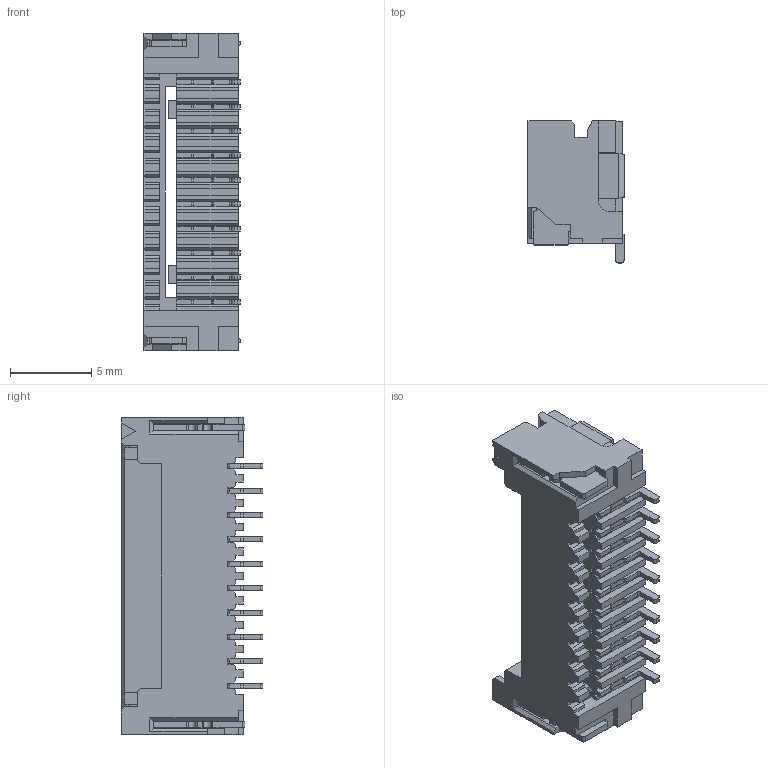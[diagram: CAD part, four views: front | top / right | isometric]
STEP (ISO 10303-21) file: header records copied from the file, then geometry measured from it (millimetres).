
FILE_DESCRIPTION (( 'STEP AP203' ), '1' );
FILE_NAME ('HC-ZE-10AWT（卧贴-HCTL）.STEP', '2024-08-24T06:32:12', ( '' ), ( '' ), 'SwSTEP 2.0', 'SolidWorks 2022', '' );
FILE_SCHEMA (( 'CONFIG_CONTROL_DESIGN' ));
Length unit declared in the file: millimetre
Products named in the file (1): HC-ZE-10AWT（卧贴-HCTL）
Bounding box: 5.9 x 8.7 x 19.5 mm (x, y, z)
Volume: 379.4 mm3; surface area: 1465.5 mm2
Topology: 11 solids, 11 shells, 938 faces, 2802 edges, 1852 vertices
Faces by surface type: plane 728, cylinder 210
Entity records: 31371 total; most frequent: ORIENTED_EDGE 5604, CARTESIAN_POINT 5593, DIRECTION 5100, EDGE_CURVE 2802, VECTOR 2382, LINE 2382, VERTEX_POINT 1852, AXIS2_PLACEMENT_3D 1359
